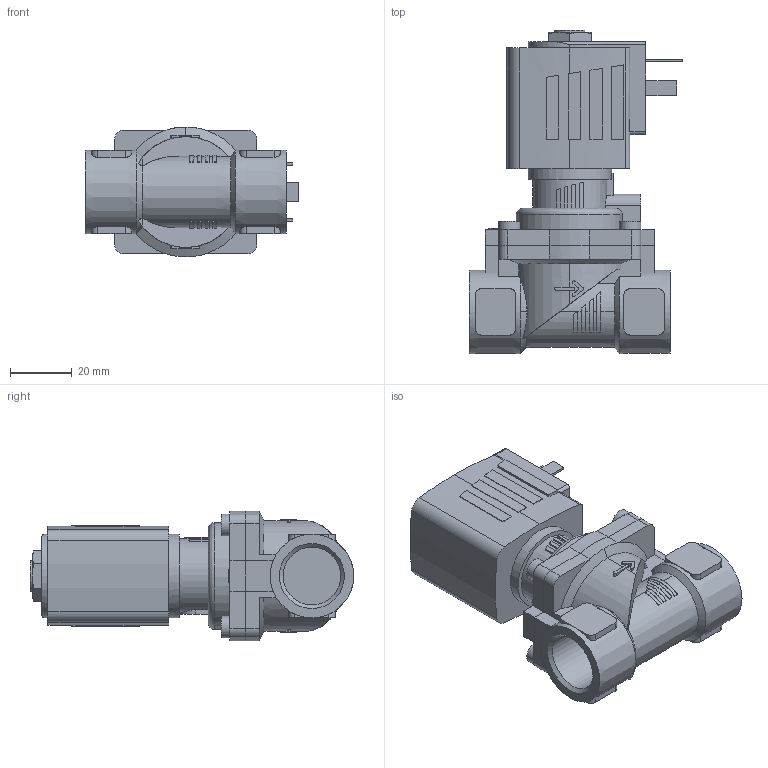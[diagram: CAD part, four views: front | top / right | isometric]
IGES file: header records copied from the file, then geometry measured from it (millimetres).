
Start section: Data from Parasolid IGES Translator 26.0.171, Copyright(c) 2006 Siemens PLM Software. All Rights Reserved.
Global section: file name: 6281-293378-2_2-Way_Solenoid_Valve__Servo-assisted__General_Purpose.igs; native system: By Siemens PLM Incorporated; preprocessor: XPlus GENERIC/IGES 26.0.171; author: Noname; organization: Noname; date: 20240514.160643; units: millimetre
Bounding box: 69 x 104.5 x 42 mm (x, y, z)
Surface area: 29225.8 mm2 (no closed solid volume)
Topology: 0 solids, 0 shells, 365 faces, 1914 edges, 1899 vertices
Faces by surface type: extrusion 236, revolution 129
